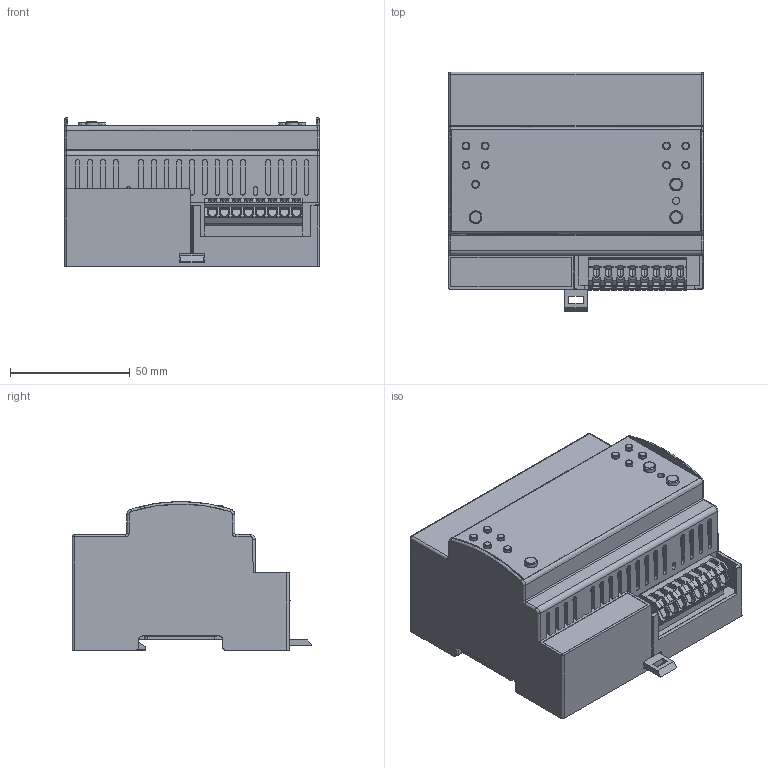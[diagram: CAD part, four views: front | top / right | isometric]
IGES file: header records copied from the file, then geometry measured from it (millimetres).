
Start section: SolidWorks IGES file using analytic representation for surfaces
Global section: file name: C:\Users\Public\HAOSENSOFTWARE\YFTSolidWorksArasPLM-V3.1.1-2023-beta\SaveAs_files\9C1-4547747-000-00.IGS; native system: SolidWorks 2023; preprocessor: SolidWorks 2023; author: P.SACHSENWEGER; date: 250618.124915; units: millimetre
Bounding box: 106.31 x 99.87 x 62 mm (x, y, z)
Surface area: 49659.2 mm2 (no closed solid volume)
Topology: 0 solids, 0 shells, 1097 faces, 11753 edges, 11737 vertices
Faces by surface type: bspline 667, revolution 430
